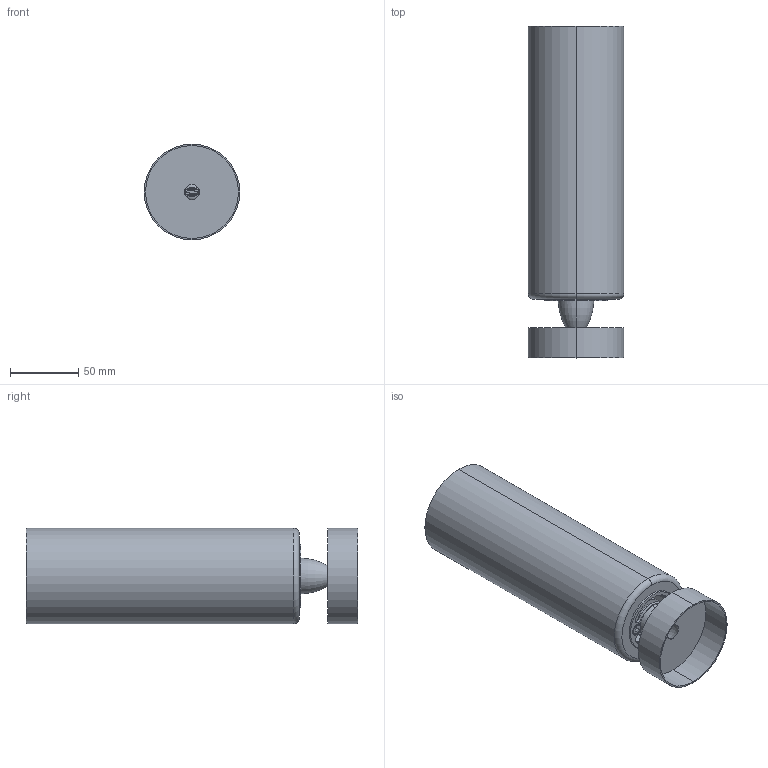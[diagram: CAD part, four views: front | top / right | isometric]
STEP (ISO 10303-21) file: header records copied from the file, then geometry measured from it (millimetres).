
FILE_DESCRIPTION (( 'STEP AP203' ), '1' );
FILE_NAME ('LIO LT P -.STEP', '2021-03-22T08:00:55', ( '' ), ( '' ), 'SwSTEP 2.0', 'SolidWorks 2020', '' );
FILE_SCHEMA (( 'CONFIG_CONTROL_DESIGN' ));
Length unit declared in the file: millimetre
Products named in the file (10): OSRAM ALOPIN 75W G9; VETRO P LIO_modifica x render; CMVISTLGHIN46GR; montatura LIO LT P (20).rev1; LIO  LT     P  -; KITLASERPNI_Down; MIVTPSEIM4X10xx; KITLASERPNI_UP; CMVISTLGHES46GR; Assieme2^LIO LT P (20).rev1
Assembly tree (10 placements, depth 4):
  LIO  LT     P  -
    montatura LIO LT P (20).rev1
    Assieme2^LIO LT P (20).rev1
      KITLASERPNI_UP
        CMVISTLGHES46GR
      KITLASERPNI_Down
        CMVISTLGHIN46GR
      MIVTPSEIM4X10xx  x2
      VETRO P LIO_modifica x render
    OSRAM ALOPIN 75W G9
Bounding box: 70 x 243 x 70 mm (x, y, z)
Volume: 189834.9 mm3; surface area: 116439.1 mm2
Topology: 7 solids, 7 shells, 193 faces, 463 edges, 292 vertices
Faces by surface type: cylinder 87, plane 60, torus 32, cone 10, bspline 4
Entity records: 6575 total; most frequent: CARTESIAN_POINT 1127, DIRECTION 1013, ORIENTED_EDGE 862, EDGE_CURVE 431, AXIS2_PLACEMENT_3D 416, VERTEX_POINT 272, CIRCLE 226, EDGE_LOOP 209
